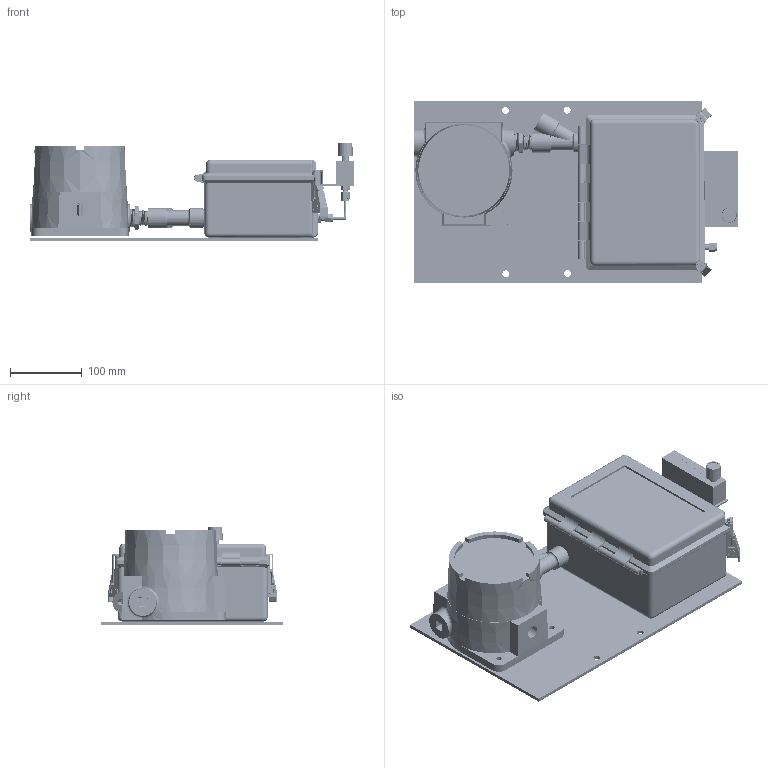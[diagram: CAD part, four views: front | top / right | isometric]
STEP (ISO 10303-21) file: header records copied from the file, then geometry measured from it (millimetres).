
FILE_DESCRIPTION (( 'STEP AP214' ), '1' );
FILE_NAME ('GPR-1800 AIS_IS.STEP', '2025-10-16T21:49:16', ( '' ), ( '' ), 'SwSTEP 2.0', 'SolidWorks 2025', '' );
FILE_SCHEMA (( 'AUTOMOTIVE_DESIGN' ));
Length unit declared in the file: inch
Products named in the file (1): GPR-1800 AIS_IS
Bounding box: 451.22 x 253.21 x 136.03 mm (x, y, z)
Volume: 2396838.8 mm3; surface area: 1070142.7 mm2
Topology: 191 solids, 191 shells, 7657 faces, 19585 edges, 12449 vertices
Faces by surface type: plane 3074, cylinder 2338, cone 1208, bspline 824, torus 185, sphere 28
Entity records: 380532 total; most frequent: CARTESIAN_POINT 206485, ORIENTED_EDGE 38986, DIRECTION 31446, EDGE_CURVE 19493, VERTEX_POINT 12449, AXIS2_PLACEMENT_3D 10788, VECTOR 9870, LINE 9870
